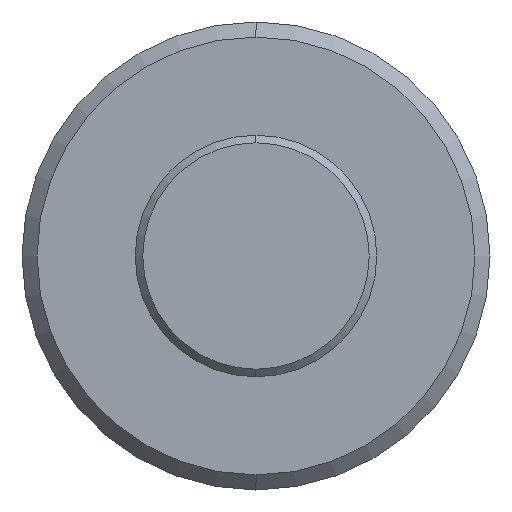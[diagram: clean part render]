
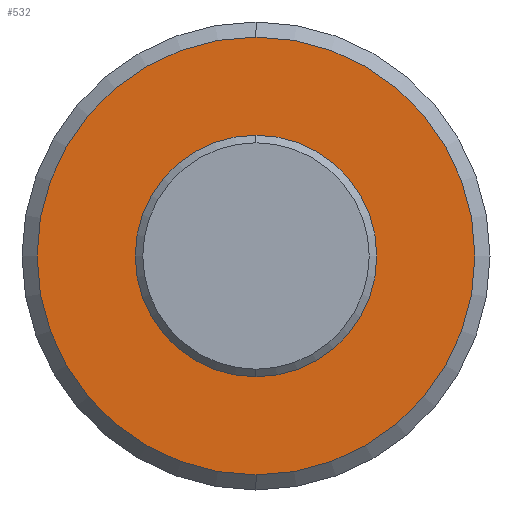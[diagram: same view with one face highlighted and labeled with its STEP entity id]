
A CAD part, left-side view. The second image highlights one B-rep face of the part: STEP entity #532.
In plain terms, the highlighted planar face has unit normal (-1, 0, 0).
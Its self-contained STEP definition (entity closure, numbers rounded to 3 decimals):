
#26 = CARTESIAN_POINT ( 'NONE',  ( 154.884, 0., 0. ) ) ;
#32 = CARTESIAN_POINT ( 'NONE',  ( 154.884, 0., 8. ) ) ;
#50 = EDGE_CURVE ( 'NONE', #531, #930, #841, .T. ) ;
#57 = CARTESIAN_POINT ( 'NONE',  ( 154.884, 0., 0. ) ) ;
#65 = CIRCLE ( 'NONE', #655, 14.5 ) ;
#75 = DIRECTION ( 'NONE',  ( 0., 0., -1. ) ) ;
#84 = AXIS2_PLACEMENT_3D ( 'NONE', #26, #520, #104 ) ;
#97 = EDGE_LOOP ( 'NONE', ( #403, #153 ) ) ;
#104 = DIRECTION ( 'NONE',  ( 0., 0., 1. ) ) ;
#153 = ORIENTED_EDGE ( 'NONE', *, *, #447, .T. ) ;
#168 = DIRECTION ( 'NONE',  ( -1., 0., 0. ) ) ;
#191 = AXIS2_PLACEMENT_3D ( 'NONE', #57, #168, #670 ) ;
#253 = DIRECTION ( 'NONE',  ( -1., 0., 0. ) ) ;
#268 = CIRCLE ( 'NONE', #625, 14.5 ) ;
#286 = PLANE ( 'NONE',  #305 ) ;
#305 = AXIS2_PLACEMENT_3D ( 'NONE', #926, #499, #75 ) ;
#328 = VERTEX_POINT ( 'NONE', #714 ) ;
#355 = CARTESIAN_POINT ( 'NONE',  ( 154.884, 0., 14.5 ) ) ;
#399 = DIRECTION ( 'NONE',  ( -1., 0., 0. ) ) ;
#403 = ORIENTED_EDGE ( 'NONE', *, *, #778, .T. ) ;
#447 = EDGE_CURVE ( 'NONE', #620, #328, #65, .T. ) ;
#499 = DIRECTION ( 'NONE',  ( 1., 0., 0. ) ) ;
#520 = DIRECTION ( 'NONE',  ( -1., 0., 0. ) ) ;
#531 = VERTEX_POINT ( 'NONE', #561 ) ;
#532 = ADVANCED_FACE ( 'NONE', ( #583, #538 ), #286, .F. ) ;
#538 = FACE_OUTER_BOUND ( 'NONE', #97, .T. ) ;
#561 = CARTESIAN_POINT ( 'NONE',  ( 154.884, 0., -8. ) ) ;
#583 = FACE_BOUND ( 'NONE', #696, .T. ) ;
#620 = VERTEX_POINT ( 'NONE', #355 ) ;
#625 = AXIS2_PLACEMENT_3D ( 'NONE', #824, #399, #899 ) ;
#655 = AXIS2_PLACEMENT_3D ( 'NONE', #682, #253, #741 ) ;
#666 = ORIENTED_EDGE ( 'NONE', *, *, #890, .F. ) ;
#670 = DIRECTION ( 'NONE',  ( 0., 0., 1. ) ) ;
#682 = CARTESIAN_POINT ( 'NONE',  ( 154.884, 0., 0. ) ) ;
#696 = EDGE_LOOP ( 'NONE', ( #666, #744 ) ) ;
#714 = CARTESIAN_POINT ( 'NONE',  ( 154.884, 0., -14.5 ) ) ;
#741 = DIRECTION ( 'NONE',  ( 0., 0., 1. ) ) ;
#744 = ORIENTED_EDGE ( 'NONE', *, *, #50, .F. ) ;
#778 = EDGE_CURVE ( 'NONE', #328, #620, #268, .T. ) ;
#824 = CARTESIAN_POINT ( 'NONE',  ( 154.884, 0., 0. ) ) ;
#827 = CIRCLE ( 'NONE', #84, 8. ) ;
#841 = CIRCLE ( 'NONE', #191, 8. ) ;
#890 = EDGE_CURVE ( 'NONE', #930, #531, #827, .T. ) ;
#899 = DIRECTION ( 'NONE',  ( 0., 0., 1. ) ) ;
#926 = CARTESIAN_POINT ( 'NONE',  ( 154.884, 8., 0. ) ) ;
#930 = VERTEX_POINT ( 'NONE', #32 ) ;
